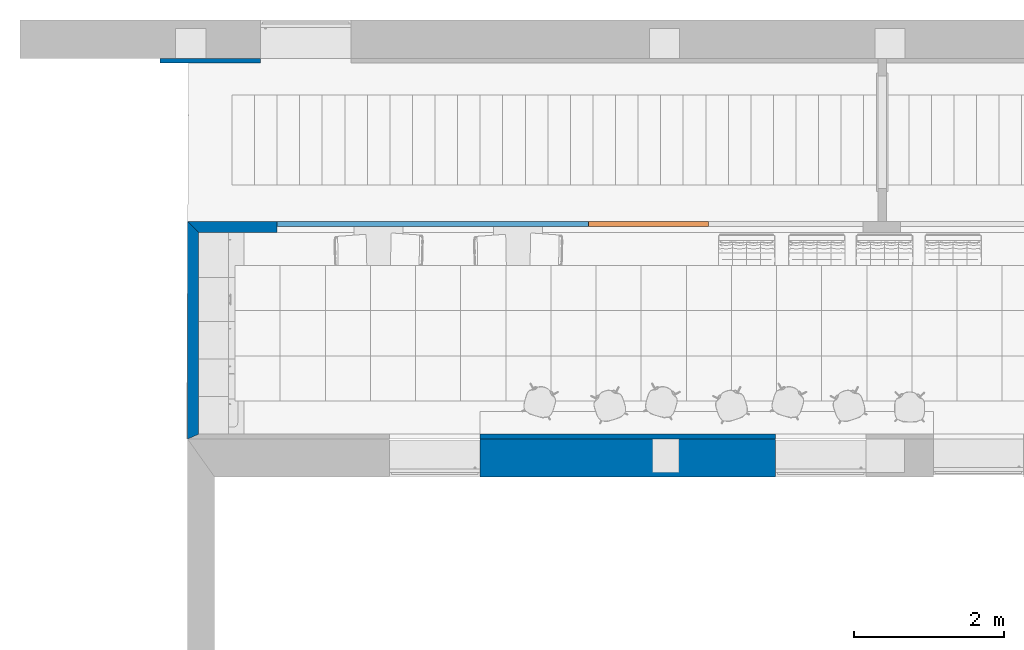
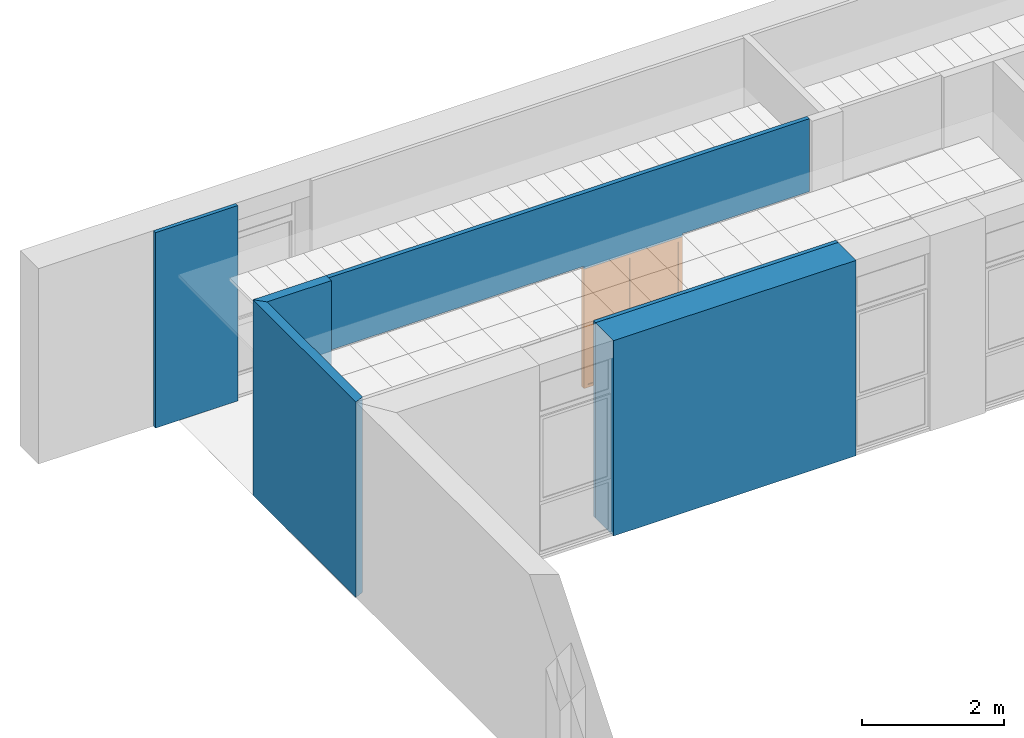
# One storey, part 36 of 68: 6 walls, 1 proxy, 3 openings.
"""IFC2X3 building model written with IfcOpenShell, lengths in millimetres."""

from ifc_helpers import new_model, entity, si_unit, converted_unit, derived_unit, money_unit, direction, frame, origin_with_axes, origin_2d_with_axis, place, context, subcontext, project, spatial, polyline, rectangle, outline, extrude, open_shell, faceted_brep, surface_model, source, transform, mapped, material, layer, layer_set, layer_usage, type_object, element, fill, save


model = new_model("IFC2X3")

# Units and contexts
model_context = context("Model", 3, precision=0.01, world=origin_with_axes(), true_north=direction((0.0, 1.0)))
body_context = subcontext(model_context, "Body", "Model", "MODEL_VIEW")
ifc_project = project(units=[si_unit("LENGTHUNIT", "METRE", prefix="MILLI"), si_unit("AREAUNIT", "SQUARE_METRE"), si_unit("VOLUMEUNIT", "CUBIC_METRE"), converted_unit("PLANEANGLEUNIT", "DEGREE", entity("IfcPlaneAngleMeasure", 0.0174532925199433), si_unit("PLANEANGLEUNIT", "RADIAN"), dimensions=[0, 0, 0, 0, 0, 0, 0]), money_unit("USD"), converted_unit("TIMEUNIT", "Year", entity("IfcTimeMeasure", 31557600.0), si_unit("TIMEUNIT", "SECOND"), dimensions=[0, 0, 1, 0, 0, 0, 0]), si_unit("MASSUNIT", "GRAM", prefix="KILO"), si_unit("THERMODYNAMICTEMPERATUREUNIT", "DEGREE_CELSIUS"), si_unit("LUMINOUSINTENSITYUNIT", "LUMEN"), si_unit("ENERGYUNIT", "JOULE", prefix="MEGA"), derived_unit("THERMALCONDUCTANCEUNIT", [(si_unit("POWERUNIT", "WATT"), 1), (si_unit("LENGTHUNIT", "METRE"), -1), (si_unit("THERMODYNAMICTEMPERATUREUNIT", "KELVIN"), -1)]), derived_unit("SPECIFICHEATCAPACITYUNIT", [(si_unit("ENERGYUNIT", "JOULE"), 1), (si_unit("MASSUNIT", "GRAM", prefix="KILO"), -1), (si_unit("THERMODYNAMICTEMPERATUREUNIT", "KELVIN"), -1)]), derived_unit("MASSDENSITYUNIT", [(si_unit("MASSUNIT", "GRAM", prefix="KILO"), 1), (si_unit("VOLUMEUNIT", "CUBIC_METRE"), -1)])], contexts=[model_context])

# Site, building, storey
site_placement = place(None, origin_with_axes())
site = spatial("IfcSite", under=ifc_project, at=site_placement, Name="Sitio", CompositionType="ELEMENT")
building_placement = place(site_placement, origin_with_axes())
building = spatial("IfcBuilding", under=site, at=building_placement, Name="Construcción", CompositionType="ELEMENT")
storey_placement = place(building_placement, origin_with_axes())
storey = spatial("IfcBuildingStorey", under=building, at=storey_placement, Name="PLANTA 1ª", CompositionType="ELEMENT", Elevation=0.0)

# Wall
ifc_material_1 = material(Name="ARQ_CE217_Gero")
ifc_layer_1 = layer(ifc_material_1, 10.0, ventilated="UNKNOWN")
ifc_layer_2 = layer(ifc_material_1, 90.0, ventilated="UNKNOWN")
ifc_material_2 = material(Name="ARQ_AI031_Aillament_Poliestireno expandido EPS")
ifc_layer_3 = layer(ifc_material_2, 180.0, ventilated="UNKNOWN")
ifc_material_3 = material(Name="ARQ_CE218_Ceramic")
ifc_layer_4 = layer(ifc_material_3, 215.0, ventilated="UNKNOWN")
ifc_material_4 = material(Name="ARQ_AM246_Arrebossat_De_Guix")
ifc_layer_5 = layer(ifc_material_4, 10.0, ventilated="UNKNOWN")
ifc_layer_set_1 = layer_set([ifc_layer_1, ifc_layer_2, ifc_layer_3, ifc_layer_4, ifc_layer_5], Name="façana pati CR2")
ifc_layer_usage_1 = layer_usage(ifc_layer_set_1, "AXIS2", "POSITIVE", -505.0)
wall_type_1 = type_object("IfcWallType", Name="façana pati CR2 505", PredefinedType="NOTDEFINED")
wall_1_placement = place(storey_placement, frame((-24166.43135579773, -1193.97582371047, 0.0), z_axis=(0.0, 0.0, 1.0), x_axis=(1.0, 0.0, 0.0)))
element("IfcWallStandardCase", 1, at=wall_1_placement, inside=storey, type_object=wall_type_1, material=ifc_layer_usage_1, Name="MS-200", context=body_context, shape_type="SweptSolid", body=[
    extrude(outline(polyline([(0.0, -504.9999999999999), (3932.500000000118, -505.0000000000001), (3932.500000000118, 0.0), (0.0, 0.0), (0.0, -504.9999999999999)])), origin_with_axes(), (0.0, 0.0, 1.0), 3350.0),
])

# Wall, openings, proxy
ifc_material_5 = material(Name="Panel de Yeso Laminado")
ifc_layer_6 = layer(ifc_material_5, 5.0, ventilated="UNKNOWN")
ifc_material_6 = material(Name="ARQ_AI033_Aillament_Llana_De_Roca")
ifc_layer_7 = layer(ifc_material_6, 60.0, ventilated="UNKNOWN")
ifc_layer_8 = layer(ifc_material_5, 5.0, ventilated="UNKNOWN")
ifc_layer_set_2 = layer_set([ifc_layer_6, ifc_layer_7, ifc_layer_8], Name="CR- MAMPARA")
ifc_layer_usage_2 = layer_usage(ifc_layer_set_2, "AXIS2", "POSITIVE", 0.0)
wall_type_2 = type_object("IfcWallType", Name="CR- MAMPARA 70", PredefinedType="NOTDEFINED")
wall_2_placement = place(storey_placement, frame((-19071.10900491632, 1700.853055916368, 0.0), z_axis=(0.0, 0.0, 1.0), x_axis=(-1.0, 0.0, 0.0)))
wall_2 = element("IfcWallStandardCase", 2, at=wall_2_placement, inside=storey, type_object=wall_type_2, material=ifc_layer_usage_2, Name="MS-214", context=body_context, shape_type="SweptSolid", body=[
    extrude(outline(polyline([(0.0, 0.0), (7792.385667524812, 0.0), (7792.385667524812, 70.00000000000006), (0.0, 70.00000000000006), (0.0, 0.0)])), origin_with_axes(), (0.0, 0.0, 1.0), 3350.0),
])
opening_1_placement = place(wall_2_placement, frame((1026.534629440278, 0.0, 0.0), z_axis=(0.0, 0.0, 1.0), x_axis=(1.0, 0.0, 0.0)))
element("IfcOpeningElement", 3, at=opening_1_placement, cuts=wall_2, Name="M-04", context=body_context, shape_type="SweptSolid", body=[
    extrude(rectangle(XDim=2053.086487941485, YDim=2100.0, at=origin_2d_with_axis()), frame((0.0, -69.99999999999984, 1050.0), z_axis=(0.0, 1.0, 0.0), x_axis=(-1.0, 0.0, 0.0)), (0.0, 0.0, 1.0), 210.0),
])
opening_2_placement = place(wall_2_placement, frame((5722.731770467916, 0.0, 0.0), z_axis=(0.0, 0.0, 1.0), x_axis=(1.0, 0.0, 0.0)))
element("IfcOpeningElement", 4, at=opening_2_placement, cuts=wall_2, Name="M-03", context=body_context, shape_type="SweptSolid", body=[
    extrude(rectangle(XDim=4139.307794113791, YDim=2100.0, at=origin_2d_with_axis()), frame((0.0, -69.99999999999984, 1050.0), z_axis=(0.0, 1.0, 0.0), x_axis=(-1.0, 0.0, 0.0)), (0.0, 0.0, 1.0), 210.0),
])
opening_3_placement = place(wall_2_placement, frame((2853.077873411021, 0.0, 0.0), z_axis=(0.0, 0.0, 1.0), x_axis=(1.0, 0.0, 0.0)))
opening_3 = element("IfcOpeningElement", 5, at=opening_3_placement, cuts=wall_2, Name="PM-4", context=body_context, shape_type="SweptSolid", body=[
    extrude(rectangle(XDim=1600.000000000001, YDim=2050.0, at=origin_2d_with_axis()), frame((0.0, -69.99999999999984, 1025.0), z_axis=(0.0, 1.0, 0.0), x_axis=(1.0, 0.0, 0.0)), (0.0, 0.0, 1.0), 210.0),
])
building_element_proxy_type = type_object("IfcBuildingElementProxyType", Name="Puerta Doble 27", PredefinedType="NOTDEFINED")
shared_shape = source(origin_with_axes(), body_context, "Body", "SurfaceModel", [
    faceted_brep([(-770.0, -40.0, 0.0), (-770.0, -40.0, 2020.0), (-770.0, -70.0, 2020.0), (-770.0, -70.0, 0.0), (-782.0, -40.0, 2020.0), (-782.0, -40.0, 0.0), (-782.0, 0.0, 2020.0), (-800.0, 0.0, 2020.0), (-800.0, -70.0, 2020.0), (-800.0, -70.0, 0.0), (-800.0, 0.0, 0.0), (-782.0, 0.0, 0.0)], [[[0, 1, 2, 3]], [[4, 1, 0, 5]], [[4, 6, 7, 8, 2, 1]], [[3, 2, 8, 9]], [[5, 0, 3, 9, 10, 11]], [[6, 4, 5, 11]], [[6, 11, 10, 7]], [[10, 9, 8, 7]]]),
    faceted_brep([(782.0, -40.0, 2020.0), (770.0, -40.0, 2020.0), (770.0, -70.0, 2020.0), (800.0, -70.0, 2020.0), (800.0, 0.0, 2020.0), (782.0, 0.0, 2020.0), (782.0, -40.0, 0.0), (770.0, -40.0, 0.0), (770.0, -70.0, 0.0), (800.0, -70.0, 0.0), (800.0, 0.0, 0.0), (782.0, 0.0, 0.0)], [[[0, 1, 2, 3, 4, 5]], [[1, 0, 6, 7]], [[1, 7, 8, 2]], [[3, 2, 8, 9]], [[4, 3, 9, 10]], [[11, 5, 4, 10]], [[0, 5, 11, 6]], [[6, 11, 10, 9, 8, 7]]]),
    faceted_brep([(-782.0, 0.0, 2032.0), (-782.0, 0.0, 2020.0), (-800.0, 0.0, 2020.0), (-800.0, 0.0, 2050.0), (800.0, 0.0, 2050.0), (800.0, 0.0, 2020.0), (782.0, 0.0, 2020.0), (782.0, 0.0, 2032.0), (-782.0, -40.0, 2032.0), (-782.0, -40.0, 2020.0), (-770.0, -40.0, 2020.0), (-770.0, -70.0, 2020.0), (-800.0, -70.0, 2020.0), (-800.0, -70.0, 2050.0), (800.0, -70.0, 2050.0), (800.0, -70.0, 2020.0), (782.0, -40.0, 2020.0), (770.0, -70.0, 2020.0), (770.0, -40.0, 2020.0), (782.0, -40.0, 2032.0)], [[[0, 1, 2, 3, 4, 5, 6, 7]], [[1, 0, 8, 9]], [[9, 10, 11, 12, 2, 1]], [[2, 12, 13, 3]], [[3, 13, 14, 4]], [[4, 14, 15, 5]], [[16, 6, 5, 15, 17, 18]], [[7, 6, 16, 19]], [[0, 7, 19, 8]], [[16, 18, 10, 9, 8, 19]], [[10, 18, 17, 11]], [[17, 15, 14, 13, 12, 11]]]),
    faceted_brep([(782.0, 0.0, 50.0), (782.0, -40.0, 50.0), (732.0, -40.0, 50.0), (732.0, 0.0, 50.0), (782.0, 0.0, 1982.0), (782.0, -40.00000000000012, 1982.0), (732.0, -40.00000000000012, 1982.0), (732.0, 0.0, 1982.0)], [[[0, 1, 2, 3]], [[4, 5, 1, 0]], [[1, 5, 6, 2]], [[3, 2, 6, 7]], [[0, 3, 7, 4]], [[7, 6, 5, 4]]]),
    faceted_brep([(0.0, 0.0, 50.0), (0.0, -40.0, 50.0), (0.0, -40.00000000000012, 1982.0), (0.0, 0.0, 1982.0), (49.99999999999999, 0.0, 50.0), (49.99999999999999, -40.0, 50.0), (49.99999999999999, -40.00000000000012, 1982.0), (49.99999999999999, 0.0, 1982.0)], [[[0, 1, 2, 3]], [[4, 5, 1, 0]], [[1, 5, 6, 2]], [[3, 2, 6, 7]], [[0, 3, 7, 4]], [[7, 6, 5, 4]]]),
    faceted_brep([(782.0, 0.0, 0.0), (782.0, -40.0, 0.0), (0.0, -40.0, 0.0), (0.0, 0.0, 0.0), (782.0, 0.0, 50.0), (782.0, -40.0, 50.0), (732.0, -40.0, 50.0), (49.99999999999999, -40.0, 50.0), (0.0, -40.0, 50.0), (0.0, 0.0, 50.0), (49.99999999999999, 0.0, 50.0), (732.0, 0.0, 50.0)], [[[0, 1, 2, 3]], [[4, 5, 1, 0]], [[1, 5, 6, 7, 8, 2]], [[3, 2, 8, 9]], [[0, 3, 9, 10, 11, 4]], [[11, 6, 5, 4]], [[10, 7, 6, 11]], [[9, 8, 7, 10]]]),
    faceted_brep([(782.0, 0.0, 2032.0), (782.0, -40.00000000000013, 2032.0), (782.0, -40.00000000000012, 1982.0), (782.0, 0.0, 1982.0), (0.0, 0.0, 2032.0), (0.0, -40.00000000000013, 2032.0), (0.0, -40.00000000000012, 1982.0), (49.99999999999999, -40.00000000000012, 1982.0), (732.0, -40.00000000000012, 1982.0), (732.0, 0.0, 1982.0), (49.99999999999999, 0.0, 1982.0), (0.0, 0.0, 1982.0)], [[[0, 1, 2, 3]], [[4, 5, 1, 0]], [[1, 5, 6, 7, 8, 2]], [[3, 2, 8, 9]], [[0, 3, 9, 10, 11, 4]], [[11, 6, 5, 4]], [[10, 7, 6, 11]], [[9, 8, 7, 10]]]),
    surface_model("IfcShellBasedSurfaceModel", [(732.0, -14.0, 50.0), (49.99999999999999, -14.0, 50.0), (49.99999999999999, -14.0, 1982.0), (732.0, -14.0, 1982.0)], [open_shell([[[0, 1, 2, 3]]])]),
    surface_model("IfcShellBasedSurfaceModel", [(732.0, -26.0, 50.0), (732.0, -26.0, 1982.0), (49.99999999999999, -26.0, 1982.0), (49.99999999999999, -26.0, 50.0)], [open_shell([[[0, 1, 2, 3]]])]),
    faceted_brep([(-782.0, 0.0, 50.0), (-732.0, 0.0, 50.0), (-732.0, -40.0, 50.0), (-782.0, -40.0, 50.0), (-782.0, 0.0, 1982.0), (-732.0, 0.0, 1982.0), (-732.0, -40.00000000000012, 1982.0), (-782.0, -40.00000000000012, 1982.0)], [[[0, 1, 2, 3]], [[0, 4, 5, 1]], [[1, 5, 6, 2]], [[3, 2, 6, 7]], [[4, 0, 3, 7]], [[5, 4, 7, 6]]]),
    faceted_brep([(0.0, 0.0, 50.0), (0.0, 0.0, 1982.0), (0.0, -40.00000000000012, 1982.0), (0.0, -40.0, 50.0), (-49.99999999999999, 0.0, 50.0), (-49.99999999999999, 0.0, 1982.0), (-49.99999999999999, -40.00000000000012, 1982.0), (-49.99999999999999, -40.0, 50.0)], [[[0, 1, 2, 3]], [[0, 4, 5, 1]], [[1, 5, 6, 2]], [[3, 2, 6, 7]], [[4, 0, 3, 7]], [[5, 4, 7, 6]]]),
    faceted_brep([(-782.0, 0.0, 0.0), (0.0, 0.0, 0.0), (0.0, -40.0, 0.0), (-782.0, -40.0, 0.0), (-782.0, 0.0, 50.0), (-732.0, 0.0, 50.0), (-49.99999999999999, 0.0, 50.0), (0.0, 0.0, 50.0), (0.0, -40.0, 50.0), (-49.99999999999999, -40.0, 50.0), (-732.0, -40.0, 50.0), (-782.0, -40.0, 50.0)], [[[0, 1, 2, 3]], [[0, 4, 5, 6, 7, 1]], [[1, 7, 8, 2]], [[3, 2, 8, 9, 10, 11]], [[4, 0, 3, 11]], [[5, 4, 11, 10]], [[6, 5, 10, 9]], [[7, 6, 9, 8]]]),
    faceted_brep([(-782.0, 0.0, 2032.0), (-782.0, 0.0, 1982.0), (-782.0, -40.00000000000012, 1982.0), (-782.0, -40.00000000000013, 2032.0), (0.0, 0.0, 2032.0), (0.0, 0.0, 1982.0), (-49.99999999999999, 0.0, 1982.0), (-732.0, 0.0, 1982.0), (-732.0, -40.00000000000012, 1982.0), (-49.99999999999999, -40.00000000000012, 1982.0), (0.0, -40.00000000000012, 1982.0), (0.0, -40.00000000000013, 2032.0)], [[[0, 1, 2, 3]], [[0, 4, 5, 6, 7, 1]], [[1, 7, 8, 2]], [[3, 2, 8, 9, 10, 11]], [[4, 0, 3, 11]], [[5, 4, 11, 10]], [[6, 5, 10, 9]], [[7, 6, 9, 8]]]),
    surface_model("IfcShellBasedSurfaceModel", [(-732.0, -14.0, 50.0), (-732.0, -14.0, 1982.0), (-49.99999999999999, -14.0, 1982.0), (-49.99999999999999, -14.0, 50.0)], [open_shell([[[0, 1, 2, 3]]])]),
    surface_model("IfcShellBasedSurfaceModel", [(-732.0, -26.0, 50.0), (-49.99999999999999, -26.0, 50.0), (-49.99999999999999, -26.0, 1982.0), (-732.0, -26.0, 1982.0)], [open_shell([[[0, 1, 2, 3]]])]),
])
proxy_placement = place(opening_3_placement, frame((-800.0000000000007, 0.0, 0.0), z_axis=(0.0, 0.0, 1.0), x_axis=(1.0, 0.0, 0.0)))
proxy = element("IfcBuildingElementProxy", 6, at=proxy_placement, inside=storey, type_object=building_element_proxy_type, Name="PM-4", context=body_context, shape_type="MappedRepresentation", body=[
    mapped(shared_shape, transform((800.0000000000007, 69.99999999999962, 0.0))),
])
fill(opening_3, proxy)

# Walls
ifc_material_7 = material(Name="ARQ_FU093_Panellat_HPL")
ifc_layer_9 = layer(ifc_material_7, 6.0, ventilated="UNKNOWN")
ifc_material_8 = material(Name="ARQ_EN271_Camara_Aire")
ifc_layer_10 = layer(ifc_material_8, 6.0, ventilated="UNKNOWN")
ifc_layer_11 = layer(ifc_material_5, 13.0, ventilated="UNKNOWN")
ifc_layer_12 = layer(ifc_material_6, 40.0, ventilated="UNKNOWN")
ifc_layer_set_3 = layer_set([ifc_layer_9, ifc_layer_10, ifc_layer_11, ifc_layer_12], Name="Pladur Tras 40 / 1N +HPL")
ifc_layer_usage_3 = layer_usage(ifc_layer_set_3, "AXIS2", "NEGATIVE", 0.0)
wall_type_3 = type_object("IfcWallType", Name="Pladur Tras 40 / 1N +HPL 65", PredefinedType="NOTDEFINED")
wall_3_placement = place(storey_placement, frame((-24166.43135579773, -1128.975823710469, 0.0), z_axis=(0.0, 0.0, 1.0), x_axis=(1.0, 0.0, 0.0)))
element("IfcWallStandardCase", 7, at=wall_3_placement, inside=storey, type_object=wall_type_3, material=ifc_layer_usage_3, Name="MS-241", context=body_context, shape_type="SweptSolid", body=[
    extrude(outline(polyline([(0.0, -64.99999999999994), (3932.499999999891, -64.99999999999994), (3932.499999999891, 0.0), (0.0, 0.0), (0.0, -64.99999999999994)])), origin_with_axes(), (0.0, 0.0, 1.0), 3350.0),
])
ifc_layer_13 = layer(ifc_material_7, 6.0, ventilated="UNKNOWN")
ifc_layer_14 = layer(ifc_material_8, 6.0, ventilated="UNKNOWN")
ifc_layer_15 = layer(ifc_material_5, 13.0, ventilated="UNKNOWN")
ifc_layer_16 = layer(ifc_material_5, 13.0, ventilated="UNKNOWN")
ifc_layer_17 = layer(ifc_material_6, 70.0, ventilated="UNKNOWN")
ifc_layer_18 = layer(ifc_material_5, 13.0, ventilated="UNKNOWN")
ifc_layer_19 = layer(ifc_material_5, 13.0, ventilated="UNKNOWN")
ifc_layer_20 = layer(ifc_material_8, 6.0, ventilated="UNKNOWN")
ifc_layer_21 = layer(ifc_material_7, 6.0, ventilated="UNKNOWN")
ifc_layer_set_4 = layer_set([ifc_layer_13, ifc_layer_14, ifc_layer_15, ifc_layer_16, ifc_layer_17, ifc_layer_18, ifc_layer_19, ifc_layer_20, ifc_layer_21], Name="CR Pladur 70 HPL 2 cares")
ifc_layer_usage_4 = layer_usage(ifc_layer_set_4, "AXIS2", "NEGATIVE", 0.0)
wall_type_4 = type_object("IfcWallType", Name="CR Pladur 70 HPL 2 cares 146", PredefinedType="NOTDEFINED")
wall_4_placement = place(storey_placement, frame((-27904.84818028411, 1700.853055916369, 0.0), z_axis=(0.0, 0.0, 1.0), x_axis=(0.0, -1.0, 0.0)))
element("IfcWallStandardCase", 8, at=wall_4_placement, inside=storey, type_object=wall_type_4, material=ifc_layer_usage_4, Name="MS-241", context=body_context, shape_type="SweptSolid", body=[
    extrude(outline(polyline([(0.0, -146.0000000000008), (2894.828879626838, -146.0000000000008), (2829.828879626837, 0.0), (145.9999999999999, 0.0), (0.0, -146.0000000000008)])), origin_with_axes(), (0.0, 0.0, 1.0), 3350.0),
])
ifc_layer_usage_5 = layer_usage(ifc_layer_set_4, "AXIS2", "POSITIVE", 0.0)
wall_5_placement = place(storey_placement, frame((-26863.49467244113, 1700.853055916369, 0.0), z_axis=(0.0, 0.0, 1.0), x_axis=(-1.0, 0.0, 0.0)))
element("IfcWallStandardCase", 9, at=wall_5_placement, inside=storey, type_object=wall_type_4, material=ifc_layer_usage_5, Name="MS-214", context=body_context, shape_type="SweptSolid", body=[
    extrude(outline(polyline([(0.0, 0.0), (1187.353507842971, 0.0), (1041.35350784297, 145.9999999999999), (0.0, 145.9999999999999), (0.0, 0.0)])), origin_with_axes(), (0.0, 0.0, 1.0), 3350.0),
])
ifc_layer_22 = layer(ifc_material_4, 20.0, ventilated="UNKNOWN")
ifc_layer_23 = layer(ifc_material_8, 40.0, ventilated="UNKNOWN")
ifc_layer_set_5 = layer_set([ifc_layer_22, ifc_layer_23], Name="CR Revestiment HPL")
ifc_layer_usage_6 = layer_usage(ifc_layer_set_5, "AXIS2", "POSITIVE", 0.0)
wall_type_5 = type_object("IfcWallType", Name="CR Revestiment HPL 60", PredefinedType="NOTDEFINED")
wall_6_placement = place(storey_placement, frame((-28416.57889526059, 3803.454186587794, 0.0), z_axis=(0.0, 0.0, 1.0), x_axis=(1.0, 0.0, 0.0)))
element("IfcWallStandardCase", 10, at=wall_6_placement, inside=storey, type_object=wall_type_5, material=ifc_layer_usage_6, Name="MS-214", context=body_context, shape_type="SweptSolid", body=[
    extrude(outline(polyline([(0.0, 0.0), (1337.487569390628, 0.0), (1337.487569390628, 60.00000000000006), (0.0, 60.00000000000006), (0.0, 0.0)])), origin_with_axes(), (0.0, 0.0, 1.0), 3350.0),
])

save(model, "model.ifc")
